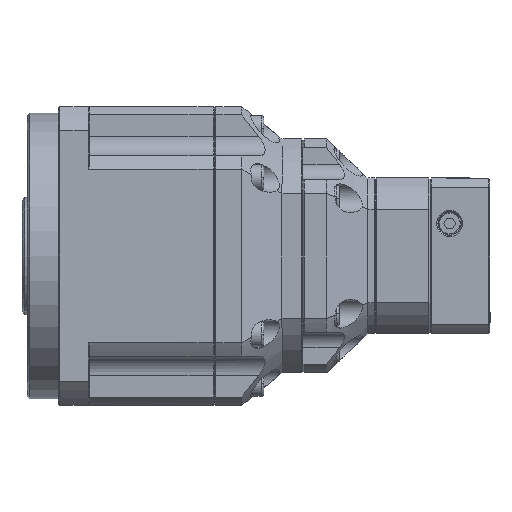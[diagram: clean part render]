
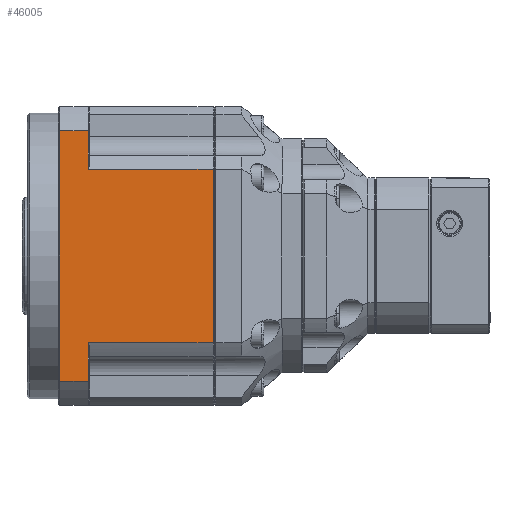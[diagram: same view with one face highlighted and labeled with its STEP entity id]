
A CAD part, left-side view. The second image highlights one B-rep face of the part: STEP entity #46005.
In plain terms, the highlighted planar face has unit normal (1, 0, 0).
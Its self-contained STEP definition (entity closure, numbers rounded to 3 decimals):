
#2521 = DIRECTION ( 'NONE',  ( 0., 0., 1. ) ) ;
#3825 = ORIENTED_EDGE ( 'NONE', *, *, #33991, .F. ) ;
#4321 = VERTEX_POINT ( 'NONE', #11040 ) ;
#5639 = VERTEX_POINT ( 'NONE', #50124 ) ;
#5992 = LINE ( 'NONE', #14020, #83169 ) ;
#7827 = LINE ( 'NONE', #63816, #25415 ) ;
#10775 = VECTOR ( 'NONE', #2521, 1000. ) ;
#11040 = CARTESIAN_POINT ( 'NONE',  ( -57.5, 24.889, 48.153 ) ) ;
#11115 = CARTESIAN_POINT ( 'NONE',  ( -57.5, -4.611, -33.407 ) ) ;
#12846 = CARTESIAN_POINT ( 'NONE',  ( -57.5, 19.389, -48.153 ) ) ;
#14020 = CARTESIAN_POINT ( 'NONE',  ( -57.5, -34.111, 0. ) ) ;
#14643 = EDGE_CURVE ( 'NONE', #35982, #4321, #7827, .T. ) ;
#15098 = LINE ( 'NONE', #26504, #92230 ) ;
#16857 = EDGE_CURVE ( 'NONE', #64584, #35592, #25055, .T. ) ;
#18632 = DIRECTION ( 'NONE',  ( 0., -1., 0. ) ) ;
#18924 = VECTOR ( 'NONE', #75620, 1000. ) ;
#18981 = DIRECTION ( 'NONE',  ( 0., 1., 0. ) ) ;
#22409 = CARTESIAN_POINT ( 'NONE',  ( -57.5, 13.889, -48.153 ) ) ;
#24202 = ORIENTED_EDGE ( 'NONE', *, *, #89845, .F. ) ;
#24359 = ORIENTED_EDGE ( 'NONE', *, *, #95581, .F. ) ;
#25055 = LINE ( 'NONE', #12846, #44908 ) ;
#25415 = VECTOR ( 'NONE', #18981, 1000. ) ;
#26504 = CARTESIAN_POINT ( 'NONE',  ( -57.5, 13.889, 0. ) ) ;
#26626 = PLANE ( 'NONE',  #62741 ) ;
#33991 = EDGE_CURVE ( 'NONE', #69963, #5639, #5992, .T. ) ;
#34027 = DIRECTION ( 'NONE',  ( 0., 0., 1. ) ) ;
#35592 = VERTEX_POINT ( 'NONE', #52403 ) ;
#35982 = VERTEX_POINT ( 'NONE', #87589 ) ;
#37029 = VERTEX_POINT ( 'NONE', #61552 ) ;
#40753 = VECTOR ( 'NONE', #68212, 1000. ) ;
#41645 = DIRECTION ( 'NONE',  ( 1., 0., 0. ) ) ;
#44908 = VECTOR ( 'NONE', #57685, 1000. ) ;
#46005 = ADVANCED_FACE ( 'NONE', ( #80190 ), #26626, .T. ) ;
#47286 = CARTESIAN_POINT ( 'NONE',  ( -57.5, 13.889, 0. ) ) ;
#50124 = CARTESIAN_POINT ( 'NONE',  ( -57.5, -34.111, 33.407 ) ) ;
#50136 = EDGE_CURVE ( 'NONE', #64584, #88494, #15098, .T. ) ;
#50564 = LINE ( 'NONE', #47286, #10775 ) ;
#50760 = EDGE_CURVE ( 'NONE', #4321, #35592, #96053, .T. ) ;
#51404 = ORIENTED_EDGE ( 'NONE', *, *, #50760, .F. ) ;
#52403 = CARTESIAN_POINT ( 'NONE',  ( -57.5, 24.889, -48.153 ) ) ;
#54273 = LINE ( 'NONE', #11115, #91612 ) ;
#57685 = DIRECTION ( 'NONE',  ( 0., 1., 0. ) ) ;
#58168 = CARTESIAN_POINT ( 'NONE',  ( -57.5, -34.111, -33.407 ) ) ;
#60641 = LINE ( 'NONE', #60730, #40753 ) ;
#60730 = CARTESIAN_POINT ( 'NONE',  ( -57.5, -4.611, 33.407 ) ) ;
#61552 = CARTESIAN_POINT ( 'NONE',  ( -57.5, 13.889, 33.407 ) ) ;
#62741 = AXIS2_PLACEMENT_3D ( 'NONE', #78889, #41645, #93840 ) ;
#63816 = CARTESIAN_POINT ( 'NONE',  ( -57.5, -4.611, 48.153 ) ) ;
#64584 = VERTEX_POINT ( 'NONE', #22409 ) ;
#65131 = ORIENTED_EDGE ( 'NONE', *, *, #80069, .F. ) ;
#65375 = EDGE_LOOP ( 'NONE', ( #24359, #65131, #3825, #24202, #71973, #90238, #51404, #71276 ) ) ;
#66377 = DIRECTION ( 'NONE',  ( 0., 0., 1. ) ) ;
#68141 = CARTESIAN_POINT ( 'NONE',  ( -57.5, 24.889, 0. ) ) ;
#68212 = DIRECTION ( 'NONE',  ( 0., 1., 0. ) ) ;
#69963 = VERTEX_POINT ( 'NONE', #58168 ) ;
#71276 = ORIENTED_EDGE ( 'NONE', *, *, #14643, .F. ) ;
#71973 = ORIENTED_EDGE ( 'NONE', *, *, #50136, .F. ) ;
#75620 = DIRECTION ( 'NONE',  ( 0., 0., -1. ) ) ;
#78889 = CARTESIAN_POINT ( 'NONE',  ( -57.5, -34.111, 48.153 ) ) ;
#80069 = EDGE_CURVE ( 'NONE', #5639, #37029, #60641, .T. ) ;
#80190 = FACE_OUTER_BOUND ( 'NONE', #65375, .T. ) ;
#83169 = VECTOR ( 'NONE', #66377, 1000. ) ;
#87589 = CARTESIAN_POINT ( 'NONE',  ( -57.5, 13.889, 48.153 ) ) ;
#88494 = VERTEX_POINT ( 'NONE', #95699 ) ;
#89845 = EDGE_CURVE ( 'NONE', #88494, #69963, #54273, .T. ) ;
#90238 = ORIENTED_EDGE ( 'NONE', *, *, #16857, .T. ) ;
#91612 = VECTOR ( 'NONE', #18632, 1000. ) ;
#92230 = VECTOR ( 'NONE', #34027, 1000. ) ;
#93840 = DIRECTION ( 'NONE',  ( 0., 0., -1. ) ) ;
#95581 = EDGE_CURVE ( 'NONE', #37029, #35982, #50564, .T. ) ;
#95699 = CARTESIAN_POINT ( 'NONE',  ( -57.5, 13.889, -33.407 ) ) ;
#96053 = LINE ( 'NONE', #68141, #18924 ) ;
